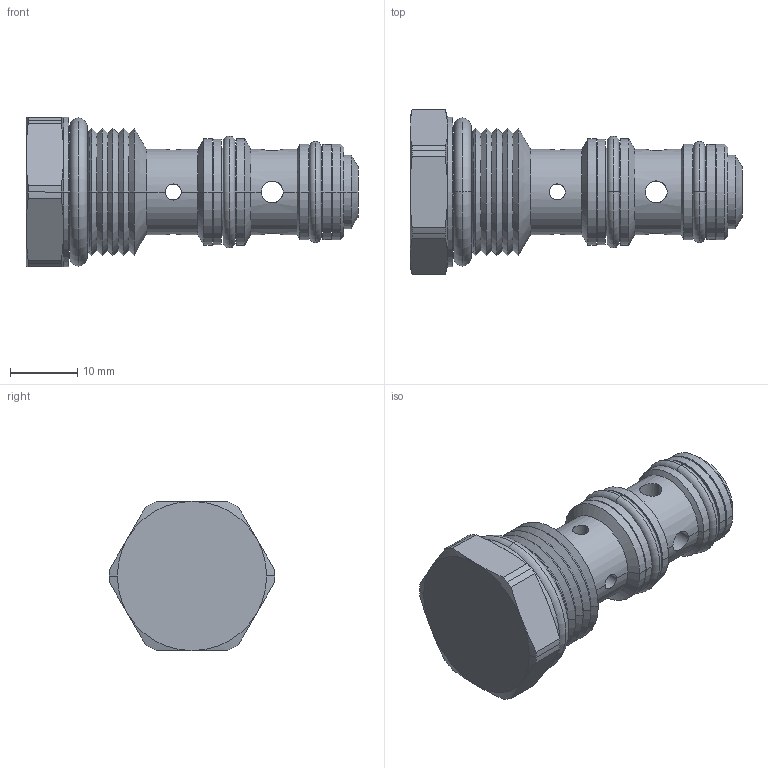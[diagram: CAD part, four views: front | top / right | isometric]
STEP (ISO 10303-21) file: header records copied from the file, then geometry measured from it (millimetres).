
FILE_DESCRIPTION((''),'2;1');
FILE_NAME('U:\Solid model CD\Solid model full\Mechanical\STEP\PPCSB00-3D Full.stp','2008-07-29T09:55:36',('Dan'),(''),'Autodesk Inventor 9','Autodesk Inventor 9','');
FILE_SCHEMA(('AUTOMOTIVE_DESIGN { 1 0 10303 214 1 1 1 1 }'));
Length unit declared in the file: inch
Products named in the file (7): PPCSB00-3D Full; PPCSB00-3D Full1; PPCSB00-3D Full2; PPCSB00-3D Full3; PPCSB00-3D Full4; PPCSB00-3D Full5; PPCSB00-3D Full6
Assembly tree (6 placements, depth 2):
  PPCSB00-3D Full
    PPCSB00-3D Full1
    PPCSB00-3D Full2
    PPCSB00-3D Full3
    PPCSB00-3D Full4
    PPCSB00-3D Full5
    PPCSB00-3D Full6
Bounding box: 49.43 x 24.64 x 22.23 mm (x, y, z)
Volume: 9763.7 mm3; surface area: 5709.1 mm2
Topology: 6 solids, 6 shells, 173 faces, 418 edges, 249 vertices
Faces by surface type: cylinder 64, cone 64, plane 33, torus 12
Entity records: 5682 total; most frequent: CARTESIAN_POINT 1501, DIRECTION 878, ORIENTED_EDGE 836, EDGE_CURVE 418, AXIS2_PLACEMENT_3D 370, VERTEX_POINT 249, EDGE_LOOP 189, CIRCLE 180
